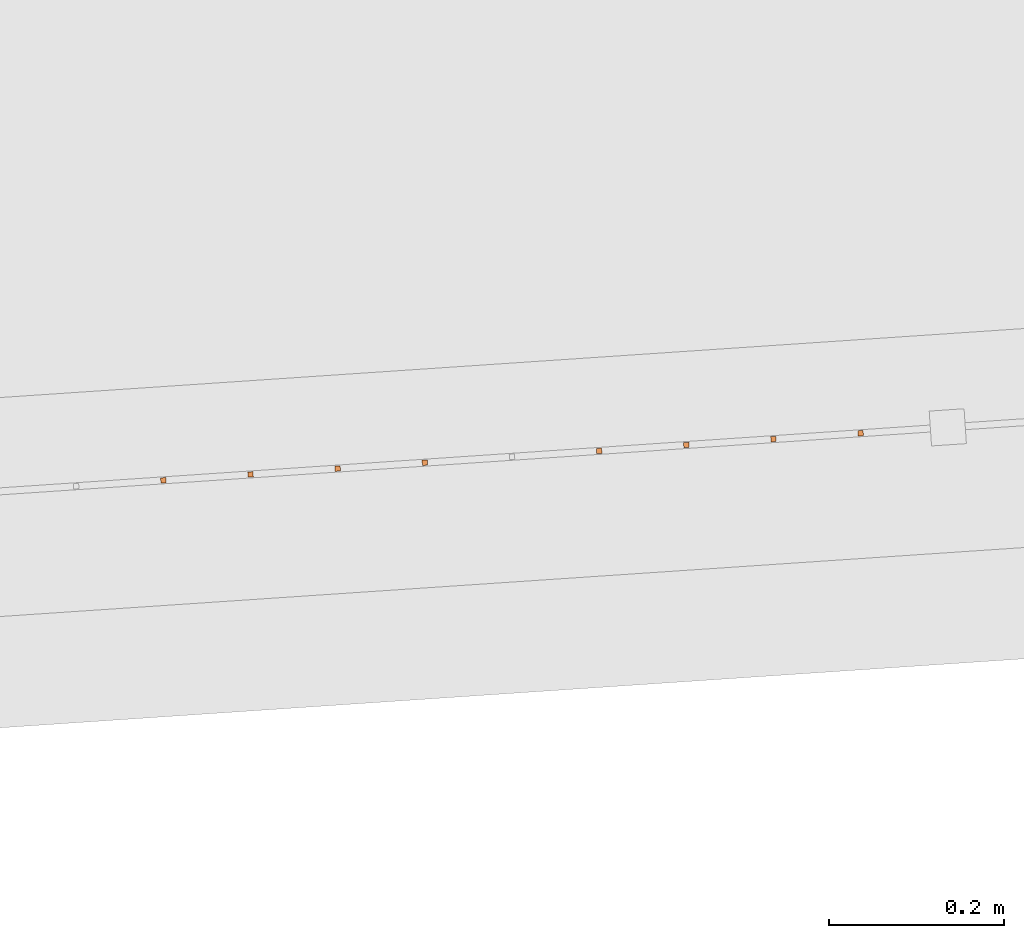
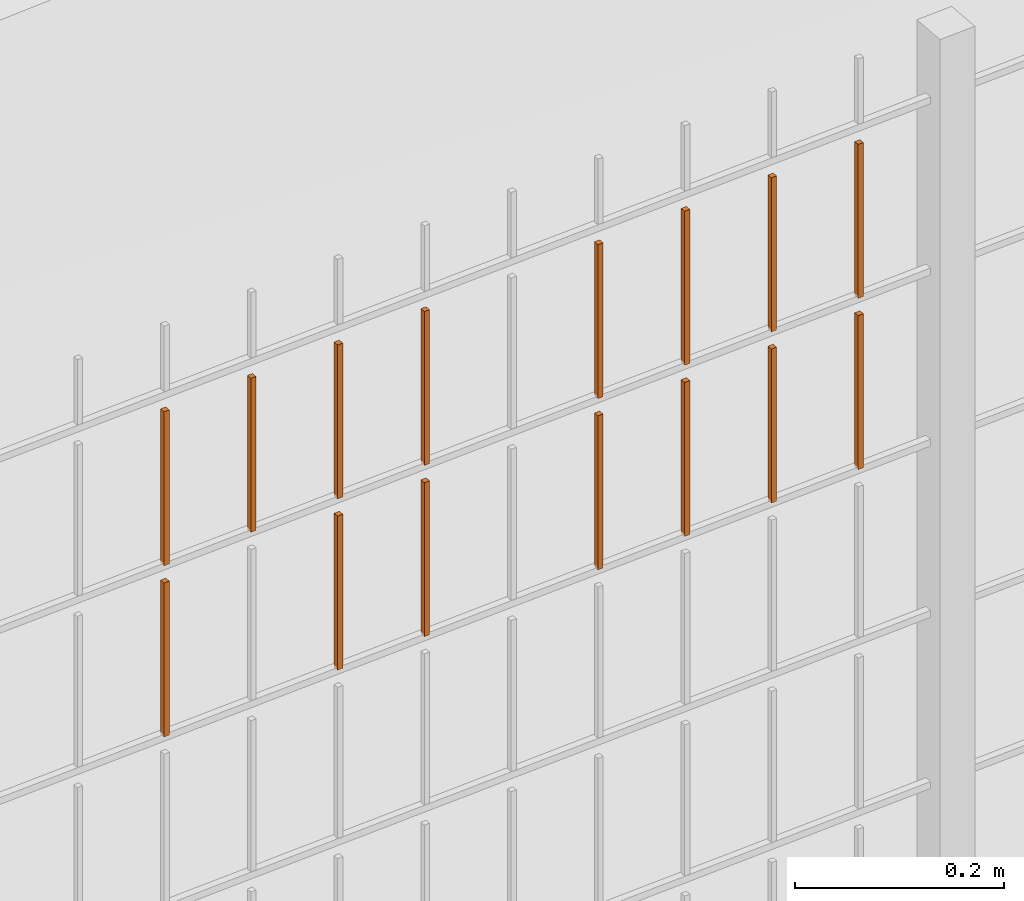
# One storey, part 306 of 1809: 15 proxies, 1 element without a shape of its own.
"""IFC2X3 building model written with IfcOpenShell, lengths in millimetres."""

from ifc_helpers import new_model, entity, si_unit, converted_unit, derived_unit, money_unit, direction, frame, origin_with_axes, place, context, subcontext, project, spatial, faceted_brep, source, transform, mapped, material, type_object, element, aggregate, save


model = new_model("IFC2X3")

# Units and contexts
model_context = context("Model", 3, precision=0.01, world=origin_with_axes(), true_north=direction((0.0, 1.0)))
body_context = subcontext(model_context, "Body", "Model", "MODEL_VIEW")
ifc_project = project(units=[si_unit("LENGTHUNIT", "METRE", prefix="MILLI"), si_unit("AREAUNIT", "SQUARE_METRE"), si_unit("VOLUMEUNIT", "CUBIC_METRE"), converted_unit("PLANEANGLEUNIT", "DEGREE", entity("IfcPlaneAngleMeasure", 0.0174532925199), si_unit("PLANEANGLEUNIT", "RADIAN"), dimensions=[0, 0, 0, 0, 0, 0, 0]), si_unit("SOLIDANGLEUNIT", "STERADIAN"), money_unit("EUR"), converted_unit("TIMEUNIT", "Year", entity("IfcTimeMeasure", 31556926.0), si_unit("TIMEUNIT", "SECOND"), dimensions=[0, 0, 1, 0, 0, 0, 0]), si_unit("MASSUNIT", "GRAM", prefix="KILO"), si_unit("THERMODYNAMICTEMPERATUREUNIT", "DEGREE_CELSIUS"), si_unit("LUMINOUSINTENSITYUNIT", "LUMEN"), si_unit("ENERGYUNIT", "JOULE", prefix="MEGA"), derived_unit("THERMALCONDUCTANCEUNIT", [(si_unit("POWERUNIT", "WATT"), 1), (si_unit("LENGTHUNIT", "METRE"), -1), (si_unit("THERMODYNAMICTEMPERATUREUNIT", "KELVIN"), -1)]), derived_unit("SPECIFICHEATCAPACITYUNIT", [(si_unit("ENERGYUNIT", "JOULE"), 1), (si_unit("MASSUNIT", "GRAM", prefix="KILO"), -1), (si_unit("THERMODYNAMICTEMPERATUREUNIT", "KELVIN"), -1)]), derived_unit("MASSDENSITYUNIT", [(si_unit("MASSUNIT", "GRAM", prefix="KILO"), 1), (si_unit("VOLUMEUNIT", "CUBIC_METRE"), -1)])], contexts=[model_context])

# Site, building, storey
site_placement = place(None, origin_with_axes())
site = spatial("IfcSite", under=ifc_project, at=site_placement, Name="Politse- ja Piirivalveameti ning Päästeameti ühishoone", CompositionType="ELEMENT")
building_placement = place(site_placement, origin_with_axes())
building = spatial("IfcBuilding", under=site, at=building_placement, Name="Politse- ja Piirivalveameti ning Päästeameti ühishoone", CompositionType="ELEMENT")
storey_placement = place(building_placement, origin_with_axes())
storey = spatial("IfcBuildingStorey", under=building, at=storey_placement, Name="Esimene korrus", CompositionType="ELEMENT", Elevation=0.0)

# Proxies
building_element_proxy_type_1 = type_object("IfcBuildingElementProxyType", Name="Railing Type", PredefinedType="NOTDEFINED")
proxy_1_placement = place(storey_placement, frame((89252.001212, -29183.4766571, 203.661247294), z_axis=(0.0, 0.0, 1.0), x_axis=(1.0, 0.0, 0.0)))
proxy_1 = element("IfcBuildingElementProxy", 1, at=proxy_1_placement, inside=storey, type_object=building_element_proxy_type_1, Name="PIIRDEAED")
ifc_material = material(Name="ET-03_Raud")
building_element_proxy_type_2 = type_object("IfcBuildingElementProxyType", Name="IfcBuildingElementProxy", PredefinedType="NOTDEFINED")
shared_shape_1 = source(origin_with_axes(), body_context, "Body", "Brep", [
    faceted_brep([(3.0, 3.0, -0.000752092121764), (-3.0, 3.0, -0.000752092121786), (-3.0, 3.0, 179.99926046), (3.0, 3.0, 179.99926046), (3.0, -3.0, 0.000752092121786), (-3.0, -3.0, 0.000752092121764), (-3.0, -3.0, 180.000764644), (3.0, -3.0, 180.000764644)], [[[0, 1, 2, 3]], [[0, 4, 5, 1]], [[1, 5, 6, 2]], [[3, 2, 6, 7]], [[4, 0, 3, 7]], [[5, 4, 7, 6]]]),
])
proxy_2_placement = place(proxy_1_placement, frame((-43128.4134013, -20210.9363261, 1816.39756835), z_axis=(0.0, 0.0, 1.0), x_axis=(1.0, 0.0, 0.0)))
proxy_2 = element("IfcBuildingElementProxy", 2, at=proxy_2_placement, type_object=building_element_proxy_type_2, material=ifc_material, Name="BALUSTER - 001", context=body_context, shape_type="MappedRepresentation", body=[
    mapped(shared_shape_1, transform((0.0, 0.0, 0.0), x_axis=(-0.0673926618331, 0.997726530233, 0.0), y_axis=(-0.997726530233, -0.0673926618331, 0.0), z_axis=(0.0, 0.0, 1.0))),
])
shared_shape_2 = source(origin_with_axes(), body_context, "Body", "Brep", [
    faceted_brep([(3.0, 3.0, -0.000752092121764), (-3.0, 3.0, -0.000752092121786), (-3.0, 3.0, 179.99926046), (3.0, 3.0, 179.99926046), (3.0, -3.0, 0.000752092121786), (-3.0, -3.0, 0.000752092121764), (-3.0, -3.0, 180.000764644), (3.0, -3.0, 180.000764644)], [[[0, 1, 2, 3]], [[0, 4, 5, 1]], [[1, 5, 6, 2]], [[3, 2, 6, 7]], [[4, 0, 3, 7]], [[5, 4, 7, 6]]]),
])
proxy_3_placement = place(proxy_1_placement, frame((-43128.4134013, -20210.9363261, 1616.39756835), z_axis=(0.0, 0.0, 1.0), x_axis=(1.0, 0.0, 0.0)))
proxy_3 = element("IfcBuildingElementProxy", 3, at=proxy_3_placement, type_object=building_element_proxy_type_2, material=ifc_material, Name="BALUSTER - 001", context=body_context, shape_type="MappedRepresentation", body=[
    mapped(shared_shape_2, transform((0.0, 0.0, 0.0), x_axis=(-0.0673926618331, 0.997726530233, 0.0), y_axis=(-0.997726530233, -0.0673926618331, 0.0), z_axis=(0.0, 0.0, 1.0))),
])
shared_shape_3 = source(origin_with_axes(), body_context, "Body", "Brep", [
    faceted_brep([(3.0, 3.0, -0.000752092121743), (-3.0, 3.0, -0.000752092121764), (-3.0, 3.0, 179.99926046), (3.0, 3.0, 179.99926046), (3.0, -3.0, 0.000752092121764), (-3.0, -3.0, 0.000752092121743), (-3.0, -3.0, 180.000764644), (3.0, -3.0, 180.000764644)], [[[0, 1, 2, 3]], [[0, 4, 5, 1]], [[1, 5, 6, 2]], [[3, 2, 6, 7]], [[4, 0, 3, 7]], [[5, 4, 7, 6]]]),
])
proxy_4_placement = place(proxy_1_placement, frame((-42629.5501361, -20177.2399952, 1816.52291704), z_axis=(0.0, 0.0, 1.0), x_axis=(1.0, 0.0, 0.0)))
proxy_4 = element("IfcBuildingElementProxy", 4, at=proxy_4_placement, type_object=building_element_proxy_type_2, material=ifc_material, Name="BALUSTER - 001", context=body_context, shape_type="MappedRepresentation", body=[
    mapped(shared_shape_3, transform((0.0, 0.0, 0.0), x_axis=(-0.0673926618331, 0.997726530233, 0.0), y_axis=(-0.997726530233, -0.0673926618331, 0.0), z_axis=(0.0, 0.0, 1.0))),
])
shared_shape_4 = source(origin_with_axes(), body_context, "Body", "Brep", [
    faceted_brep([(3.0, 3.0, -0.000752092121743), (-3.0, 3.0, -0.000752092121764), (-3.0, 3.0, 179.99926046), (3.0, 3.0, 179.99926046), (3.0, -3.0, 0.000752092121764), (-3.0, -3.0, 0.000752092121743), (-3.0, -3.0, 180.000764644), (3.0, -3.0, 180.000764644)], [[[0, 1, 2, 3]], [[0, 4, 5, 1]], [[1, 5, 6, 2]], [[3, 2, 6, 7]], [[4, 0, 3, 7]], [[5, 4, 7, 6]]]),
])
proxy_5_placement = place(proxy_1_placement, frame((-42629.5501361, -20177.2399952, 1616.52291704), z_axis=(0.0, 0.0, 1.0), x_axis=(1.0, 0.0, 0.0)))
proxy_5 = element("IfcBuildingElementProxy", 5, at=proxy_5_placement, type_object=building_element_proxy_type_2, material=ifc_material, Name="BALUSTER - 001", context=body_context, shape_type="MappedRepresentation", body=[
    mapped(shared_shape_4, transform((0.0, 0.0, 0.0), x_axis=(-0.0673926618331, 0.997726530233, 0.0), y_axis=(-0.997726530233, -0.0673926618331, 0.0), z_axis=(0.0, 0.0, 1.0))),
])
shared_shape_5 = source(origin_with_axes(), body_context, "Body", "Brep", [
    faceted_brep([(3.0, 3.0, -0.000752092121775), (-3.0, 3.0, -0.000752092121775), (-3.0, 3.0, 179.99926046), (3.0, 3.0, 179.99926046), (3.0, -3.0, 0.000752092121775), (-3.0, -3.0, 0.000752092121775), (-3.0, -3.0, 180.000764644), (3.0, -3.0, 180.000764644)], [[[0, 1, 2, 3]], [[0, 4, 5, 1]], [[1, 5, 6, 2]], [[3, 2, 6, 7]], [[4, 0, 3, 7]], [[5, 4, 7, 6]]]),
])
proxy_6_placement = place(proxy_1_placement, frame((-42330.2321771, -20157.0221966, 1816.59812625), z_axis=(0.0, 0.0, 1.0), x_axis=(1.0, 0.0, 0.0)))
proxy_6 = element("IfcBuildingElementProxy", 6, at=proxy_6_placement, type_object=building_element_proxy_type_2, material=ifc_material, Name="BALUSTER - 001", context=body_context, shape_type="MappedRepresentation", body=[
    mapped(shared_shape_5, transform((0.0, 0.0, 0.0), x_axis=(-0.0673926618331, 0.997726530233, 0.0), y_axis=(-0.997726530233, -0.0673926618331, 0.0), z_axis=(0.0, 0.0, 1.0))),
])
shared_shape_6 = source(origin_with_axes(), body_context, "Body", "Brep", [
    faceted_brep([(3.0, 3.0, -0.000752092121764), (-3.0, 3.0, -0.000752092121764), (-3.0, 3.0, 179.99926046), (3.0, 3.0, 179.99926046), (3.0, -3.0, 0.000752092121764), (-3.0, -3.0, 0.000752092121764), (-3.0, -3.0, 180.000764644), (3.0, -3.0, 180.000764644)], [[[0, 1, 2, 3]], [[0, 4, 5, 1]], [[1, 5, 6, 2]], [[3, 2, 6, 7]], [[4, 0, 3, 7]], [[5, 4, 7, 6]]]),
])
proxy_7_placement = place(proxy_1_placement, frame((-42928.8680952, -20197.4577937, 1616.44770783), z_axis=(0.0, 0.0, 1.0), x_axis=(1.0, 0.0, 0.0)))
proxy_7 = element("IfcBuildingElementProxy", 7, at=proxy_7_placement, type_object=building_element_proxy_type_2, material=ifc_material, Name="BALUSTER - 001", context=body_context, shape_type="MappedRepresentation", body=[
    mapped(shared_shape_6, transform((0.0, 0.0, 0.0), x_axis=(-0.0673926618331, 0.997726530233, 0.0), y_axis=(-0.997726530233, -0.0673926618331, 0.0), z_axis=(0.0, 0.0, 1.0))),
])
shared_shape_7 = source(origin_with_axes(), body_context, "Body", "Brep", [
    faceted_brep([(3.0, 3.0, -0.000752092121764), (-3.0, 3.0, -0.000752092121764), (-3.0, 3.0, 179.99926046), (3.0, 3.0, 179.99926046), (3.0, -3.0, 0.000752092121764), (-3.0, -3.0, 0.000752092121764), (-3.0, -3.0, 180.000764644), (3.0, -3.0, 180.000764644)], [[[0, 1, 2, 3]], [[0, 4, 5, 1]], [[1, 5, 6, 2]], [[3, 2, 6, 7]], [[4, 0, 3, 7]], [[5, 4, 7, 6]]]),
])
proxy_8_placement = place(proxy_1_placement, frame((-42928.8680952, -20197.4577937, 1816.44770783), z_axis=(0.0, 0.0, 1.0), x_axis=(1.0, 0.0, 0.0)))
proxy_8 = element("IfcBuildingElementProxy", 8, at=proxy_8_placement, type_object=building_element_proxy_type_2, material=ifc_material, Name="BALUSTER - 001", context=body_context, shape_type="MappedRepresentation", body=[
    mapped(shared_shape_7, transform((0.0, 0.0, 0.0), x_axis=(-0.0673926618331, 0.997726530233, 0.0), y_axis=(-0.997726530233, -0.0673926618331, 0.0), z_axis=(0.0, 0.0, 1.0))),
])
shared_shape_8 = source(origin_with_axes(), body_context, "Body", "Brep", [
    faceted_brep([(3.0, 3.0, -0.000752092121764), (-3.0, 3.0, -0.000752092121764), (-3.0, 3.0, 179.99926046), (3.0, 3.0, 179.99926046), (3.0, -3.0, 0.000752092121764), (-3.0, -3.0, 0.000752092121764), (-3.0, -3.0, 180.000764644), (3.0, -3.0, 180.000764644)], [[[0, 1, 2, 3]], [[0, 4, 5, 1]], [[1, 5, 6, 2]], [[3, 2, 6, 7]], [[4, 0, 3, 7]], [[5, 4, 7, 6]]]),
])
proxy_9_placement = place(proxy_1_placement, frame((-42529.7774831, -20170.500729, 1816.54798678), z_axis=(0.0, 0.0, 1.0), x_axis=(1.0, 0.0, 0.0)))
proxy_9 = element("IfcBuildingElementProxy", 9, at=proxy_9_placement, type_object=building_element_proxy_type_2, material=ifc_material, Name="BALUSTER - 001", context=body_context, shape_type="MappedRepresentation", body=[
    mapped(shared_shape_8, transform((0.0, 0.0, 0.0), x_axis=(-0.0673926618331, 0.997726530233, 0.0), y_axis=(-0.997726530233, -0.0673926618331, 0.0), z_axis=(0.0, 0.0, 1.0))),
])
shared_shape_9 = source(origin_with_axes(), body_context, "Body", "Brep", [
    faceted_brep([(3.0, 3.0, -0.000752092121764), (-3.0, 3.0, -0.000752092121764), (-3.0, 3.0, 179.99926046), (3.0, 3.0, 179.99926046), (3.0, -3.0, 0.000752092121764), (-3.0, -3.0, 0.000752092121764), (-3.0, -3.0, 180.000764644), (3.0, -3.0, 180.000764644)], [[[0, 1, 2, 3]], [[0, 4, 5, 1]], [[1, 5, 6, 2]], [[3, 2, 6, 7]], [[4, 0, 3, 7]], [[5, 4, 7, 6]]]),
])
proxy_10_placement = place(proxy_1_placement, frame((-42529.7774831, -20170.500729, 1616.54798678), z_axis=(0.0, 0.0, 1.0), x_axis=(1.0, 0.0, 0.0)))
proxy_10 = element("IfcBuildingElementProxy", 10, at=proxy_10_placement, type_object=building_element_proxy_type_2, material=ifc_material, Name="BALUSTER - 001", context=body_context, shape_type="MappedRepresentation", body=[
    mapped(shared_shape_9, transform((0.0, 0.0, 0.0), x_axis=(-0.0673926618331, 0.997726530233, 0.0), y_axis=(-0.997726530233, -0.0673926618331, 0.0), z_axis=(0.0, 0.0, 1.0))),
])
shared_shape_10 = source(origin_with_axes(), body_context, "Body", "Brep", [
    faceted_brep([(3.0, 3.0, -0.000752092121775), (-3.0, 3.0, -0.000752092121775), (-3.0, 3.0, 179.99926046), (3.0, 3.0, 179.99926046), (3.0, -3.0, 0.000752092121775), (-3.0, -3.0, 0.000752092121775), (-3.0, -3.0, 180.000764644), (3.0, -3.0, 180.000764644)], [[[0, 1, 2, 3]], [[0, 4, 5, 1]], [[1, 5, 6, 2]], [[3, 2, 6, 7]], [[4, 0, 3, 7]], [[5, 4, 7, 6]]]),
])
proxy_11_placement = place(proxy_1_placement, frame((-42829.0954422, -20190.7185276, 1816.47277757), z_axis=(0.0, 0.0, 1.0), x_axis=(1.0, 0.0, 0.0)))
proxy_11 = element("IfcBuildingElementProxy", 11, at=proxy_11_placement, type_object=building_element_proxy_type_2, material=ifc_material, Name="BALUSTER - 001", context=body_context, shape_type="MappedRepresentation", body=[
    mapped(shared_shape_10, transform((0.0, 0.0, 0.0), x_axis=(-0.0673926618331, 0.997726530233, 0.0), y_axis=(-0.997726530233, -0.0673926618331, 0.0), z_axis=(0.0, 0.0, 1.0))),
])
shared_shape_11 = source(origin_with_axes(), body_context, "Body", "Brep", [
    faceted_brep([(3.0, 3.0, -0.000752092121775), (-3.0, 3.0, -0.000752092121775), (-3.0, 3.0, 179.99926046), (3.0, 3.0, 179.99926046), (3.0, -3.0, 0.000752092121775), (-3.0, -3.0, 0.000752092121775), (-3.0, -3.0, 180.000764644), (3.0, -3.0, 180.000764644)], [[[0, 1, 2, 3]], [[0, 4, 5, 1]], [[1, 5, 6, 2]], [[3, 2, 6, 7]], [[4, 0, 3, 7]], [[5, 4, 7, 6]]]),
])
proxy_12_placement = place(proxy_1_placement, frame((-42430.0048301, -20163.7614628, 1816.57305651), z_axis=(0.0, 0.0, 1.0), x_axis=(1.0, 0.0, 0.0)))
proxy_12 = element("IfcBuildingElementProxy", 12, at=proxy_12_placement, type_object=building_element_proxy_type_2, material=ifc_material, Name="BALUSTER - 001", context=body_context, shape_type="MappedRepresentation", body=[
    mapped(shared_shape_11, transform((0.0, 0.0, 0.0), x_axis=(-0.0673926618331, 0.997726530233, 0.0), y_axis=(-0.997726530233, -0.0673926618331, 0.0), z_axis=(0.0, 0.0, 1.0))),
])
shared_shape_12 = source(origin_with_axes(), body_context, "Body", "Brep", [
    faceted_brep([(3.0, 3.0, -0.000752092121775), (-3.0, 3.0, -0.000752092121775), (-3.0, 3.0, 179.99926046), (3.0, 3.0, 179.99926046), (3.0, -3.0, 0.000752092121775), (-3.0, -3.0, 0.000752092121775), (-3.0, -3.0, 180.000764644), (3.0, -3.0, 180.000764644)], [[[0, 1, 2, 3]], [[0, 4, 5, 1]], [[1, 5, 6, 2]], [[3, 2, 6, 7]], [[4, 0, 3, 7]], [[5, 4, 7, 6]]]),
])
proxy_13_placement = place(proxy_1_placement, frame((-42330.2321771, -20157.0221966, 1616.59812625), z_axis=(0.0, 0.0, 1.0), x_axis=(1.0, 0.0, 0.0)))
proxy_13 = element("IfcBuildingElementProxy", 13, at=proxy_13_placement, type_object=building_element_proxy_type_2, material=ifc_material, Name="BALUSTER - 001", context=body_context, shape_type="MappedRepresentation", body=[
    mapped(shared_shape_12, transform((0.0, 0.0, 0.0), x_axis=(-0.0673926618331, 0.997726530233, 0.0), y_axis=(-0.997726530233, -0.0673926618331, 0.0), z_axis=(0.0, 0.0, 1.0))),
])
shared_shape_13 = source(origin_with_axes(), body_context, "Body", "Brep", [
    faceted_brep([(3.0, 3.0, -0.000752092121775), (-3.0, 3.0, -0.000752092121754), (-3.0, 3.0, 179.99926046), (3.0, 3.0, 179.99926046), (3.0, -3.0, 0.000752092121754), (-3.0, -3.0, 0.000752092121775), (-3.0, -3.0, 180.000764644), (3.0, -3.0, 180.000764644)], [[[0, 1, 2, 3]], [[0, 4, 5, 1]], [[1, 5, 6, 2]], [[3, 2, 6, 7]], [[4, 0, 3, 7]], [[5, 4, 7, 6]]]),
])
proxy_14_placement = place(proxy_1_placement, frame((-43028.6407482, -20204.1970599, 1816.42263809), z_axis=(0.0, 0.0, 1.0), x_axis=(1.0, 0.0, 0.0)))
proxy_14 = element("IfcBuildingElementProxy", 14, at=proxy_14_placement, type_object=building_element_proxy_type_2, material=ifc_material, Name="BALUSTER - 001", context=body_context, shape_type="MappedRepresentation", body=[
    mapped(shared_shape_13, transform((0.0, 0.0, 0.0), x_axis=(-0.0673926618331, 0.997726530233, 0.0), y_axis=(-0.997726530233, -0.0673926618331, 0.0), z_axis=(0.0, 0.0, 1.0))),
])
shared_shape_14 = source(origin_with_axes(), body_context, "Body", "Brep", [
    faceted_brep([(3.0, 3.0, -0.000752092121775), (-3.0, 3.0, -0.000752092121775), (-3.0, 3.0, 179.99926046), (3.0, 3.0, 179.99926046), (3.0, -3.0, 0.000752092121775), (-3.0, -3.0, 0.000752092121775), (-3.0, -3.0, 180.000764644), (3.0, -3.0, 180.000764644)], [[[0, 1, 2, 3]], [[0, 4, 5, 1]], [[1, 5, 6, 2]], [[3, 2, 6, 7]], [[4, 0, 3, 7]], [[5, 4, 7, 6]]]),
])
proxy_15_placement = place(proxy_1_placement, frame((-42430.0048301, -20163.7614628, 1616.57305651), z_axis=(0.0, 0.0, 1.0), x_axis=(1.0, 0.0, 0.0)))
proxy_15 = element("IfcBuildingElementProxy", 15, at=proxy_15_placement, type_object=building_element_proxy_type_2, material=ifc_material, Name="BALUSTER - 001", context=body_context, shape_type="MappedRepresentation", body=[
    mapped(shared_shape_14, transform((0.0, 0.0, 0.0), x_axis=(-0.0673926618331, 0.997726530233, 0.0), y_axis=(-0.997726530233, -0.0673926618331, 0.0), z_axis=(0.0, 0.0, 1.0))),
])
shared_shape_15 = source(origin_with_axes(), body_context, "Body", "Brep", [
    faceted_brep([(3.0, 3.0, -0.000752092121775), (-3.0, 3.0, -0.000752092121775), (-3.0, 3.0, 179.99926046), (3.0, 3.0, 179.99926046), (3.0, -3.0, 0.000752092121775), (-3.0, -3.0, 0.000752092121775), (-3.0, -3.0, 180.000764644), (3.0, -3.0, 180.000764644)], [[[0, 1, 2, 3]], [[0, 4, 5, 1]], [[1, 5, 6, 2]], [[3, 2, 6, 7]], [[4, 0, 3, 7]], [[5, 4, 7, 6]]]),
])
proxy_16_placement = place(proxy_1_placement, frame((-42829.0954422, -20190.7185276, 1616.47277757), z_axis=(0.0, 0.0, 1.0), x_axis=(1.0, 0.0, 0.0)))
proxy_16 = element("IfcBuildingElementProxy", 16, at=proxy_16_placement, type_object=building_element_proxy_type_2, material=ifc_material, Name="BALUSTER - 001", context=body_context, shape_type="MappedRepresentation", body=[
    mapped(shared_shape_15, transform((0.0, 0.0, 0.0), x_axis=(-0.0673926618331, 0.997726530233, 0.0), y_axis=(-0.997726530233, -0.0673926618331, 0.0), z_axis=(0.0, 0.0, 1.0))),
])
aggregate(proxy_1, [proxy_13, proxy_15, proxy_10, proxy_5, proxy_16, proxy_7, proxy_3, proxy_6, proxy_12, proxy_9, proxy_4, proxy_11, proxy_8, proxy_14, proxy_2])

save(model, "model.ifc")
